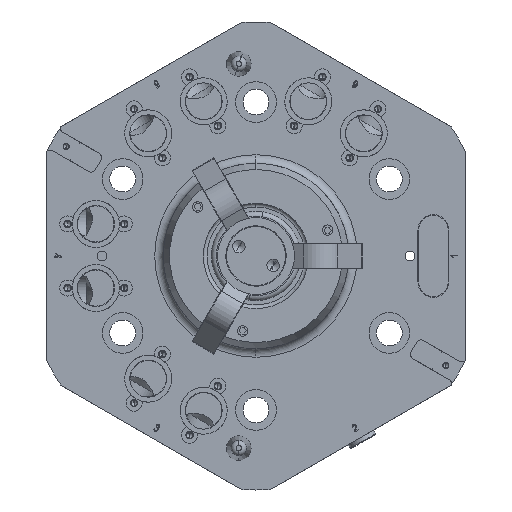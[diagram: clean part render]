
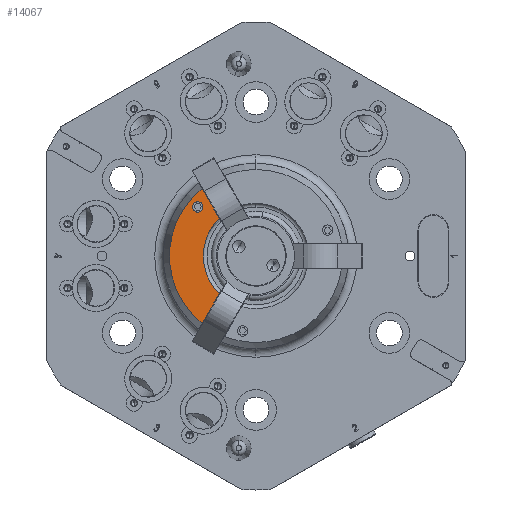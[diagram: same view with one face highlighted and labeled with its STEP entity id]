
A CAD part, front view. The second image highlights one B-rep face of the part: STEP entity #14067.
In plain terms, the highlighted planar face has unit normal (0, -1, 0).
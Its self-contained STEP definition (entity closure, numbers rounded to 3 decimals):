
#73 = CIRCLE ( 'NONE', #20334, 2.1 ) ;
#899 = EDGE_CURVE ( 'NONE', #69655, #12822, #69846, .T. ) ;
#1826 = AXIS2_PLACEMENT_3D ( 'NONE', #63454, #34979, #57825 ) ;
#2688 = CARTESIAN_POINT ( 'NONE',  ( -21.901, -44.5, 27.434 ) ) ;
#3039 = CARTESIAN_POINT ( 'NONE',  ( 0., -44.5, 0. ) ) ;
#3246 = EDGE_CURVE ( 'NONE', #37059, #16467, #73, .T. ) ;
#4807 = PLANE ( 'NONE',  #25151 ) ;
#6220 = DIRECTION ( 'NONE',  ( 0.5, 0., -0.866 ) ) ;
#8258 = ORIENTED_EDGE ( 'NONE', *, *, #34932, .F. ) ;
#8622 = DIRECTION ( 'NONE',  ( 0., -1., 0. ) ) ;
#10729 = CARTESIAN_POINT ( 'NONE',  ( 0., -44.5, 0. ) ) ;
#10870 = VERTEX_POINT ( 'NONE', #66391 ) ;
#12822 = VERTEX_POINT ( 'NONE', #65186 ) ;
#14067 = ADVANCED_FACE ( 'NONE', ( #61627, #45123 ), #4807, .T. ) ;
#16467 = VERTEX_POINT ( 'NONE', #40708 ) ;
#19076 = DIRECTION ( 'NONE',  ( 0., 0., -1. ) ) ;
#19859 = ORIENTED_EDGE ( 'NONE', *, *, #899, .T. ) ;
#20334 = AXIS2_PLACEMENT_3D ( 'NONE', #44936, #55450, #61786 ) ;
#20930 = CARTESIAN_POINT ( 'NONE',  ( -14.902, -44.5, -15.31 ) ) ;
#21089 = VERTEX_POINT ( 'NONE', #20930 ) ;
#21479 = ORIENTED_EDGE ( 'NONE', *, *, #23035, .F. ) ;
#23035 = EDGE_CURVE ( 'NONE', #10870, #21089, #64189, .T. ) ;
#24156 = LINE ( 'NONE', #59294, #71740 ) ;
#24365 = ORIENTED_EDGE ( 'NONE', *, *, #68795, .F. ) ;
#25151 = AXIS2_PLACEMENT_3D ( 'NONE', #50383, #56737, #67965 ) ;
#28574 = VECTOR ( 'NONE', #6220, 1000. ) ;
#33500 = CARTESIAN_POINT ( 'NONE',  ( -14.902, -44.5, 15.31 ) ) ;
#34932 = EDGE_CURVE ( 'NONE', #16467, #37059, #71038, .T. ) ;
#34979 = DIRECTION ( 'NONE',  ( 0., -1., 0. ) ) ;
#37059 = VERTEX_POINT ( 'NONE', #58442 ) ;
#38029 = DIRECTION ( 'NONE',  ( 0., -1., 0. ) ) ;
#38783 = AXIS2_PLACEMENT_3D ( 'NONE', #3039, #8622, #19076 ) ;
#40243 = AXIS2_PLACEMENT_3D ( 'NONE', #10729, #38029, #60879 ) ;
#40708 = CARTESIAN_POINT ( 'NONE',  ( -23.624, -44.5, 17.818 ) ) ;
#42047 = EDGE_CURVE ( 'NONE', #69655, #10870, #67569, .T. ) ;
#44936 = CARTESIAN_POINT ( 'NONE',  ( -23.624, -44.5, 19.918 ) ) ;
#45123 = FACE_OUTER_BOUND ( 'NONE', #67799, .T. ) ;
#49774 = EDGE_LOOP ( 'NONE', ( #8258, #54736 ) ) ;
#50383 = CARTESIAN_POINT ( 'NONE',  ( 0., -44.5, 0. ) ) ;
#54736 = ORIENTED_EDGE ( 'NONE', *, *, #3246, .F. ) ;
#55450 = DIRECTION ( 'NONE',  ( 0., -1., 0. ) ) ;
#56737 = DIRECTION ( 'NONE',  ( 0., -1., 0. ) ) ;
#57825 = DIRECTION ( 'NONE',  ( 0., 0., -1. ) ) ;
#58442 = CARTESIAN_POINT ( 'NONE',  ( -23.624, -44.5, 22.018 ) ) ;
#58915 = DIRECTION ( 'NONE',  ( -0.5, 0., -0.866 ) ) ;
#59294 = CARTESIAN_POINT ( 'NONE',  ( -14.902, -44.5, -15.31 ) ) ;
#60879 = DIRECTION ( 'NONE',  ( 0., 0., -1. ) ) ;
#61627 = FACE_BOUND ( 'NONE', #49774, .T. ) ;
#61786 = DIRECTION ( 'NONE',  ( 0., 0., -1. ) ) ;
#63454 = CARTESIAN_POINT ( 'NONE',  ( -23.624, -44.5, 19.918 ) ) ;
#64189 = CIRCLE ( 'NONE', #40243, 21.365 ) ;
#65186 = CARTESIAN_POINT ( 'NONE',  ( -21.901, -44.5, -27.434 ) ) ;
#66391 = CARTESIAN_POINT ( 'NONE',  ( -14.902, -44.5, 15.31 ) ) ;
#67569 = LINE ( 'NONE', #33500, #28574 ) ;
#67799 = EDGE_LOOP ( 'NONE', ( #68367, #19859, #24365, #21479 ) ) ;
#67965 = DIRECTION ( 'NONE',  ( 0., 0., -1. ) ) ;
#68367 = ORIENTED_EDGE ( 'NONE', *, *, #42047, .F. ) ;
#68795 = EDGE_CURVE ( 'NONE', #21089, #12822, #24156, .T. ) ;
#69655 = VERTEX_POINT ( 'NONE', #2688 ) ;
#69846 = CIRCLE ( 'NONE', #38783, 35.104 ) ;
#71038 = CIRCLE ( 'NONE', #1826, 2.1 ) ;
#71740 = VECTOR ( 'NONE', #58915, 1000. ) ;
